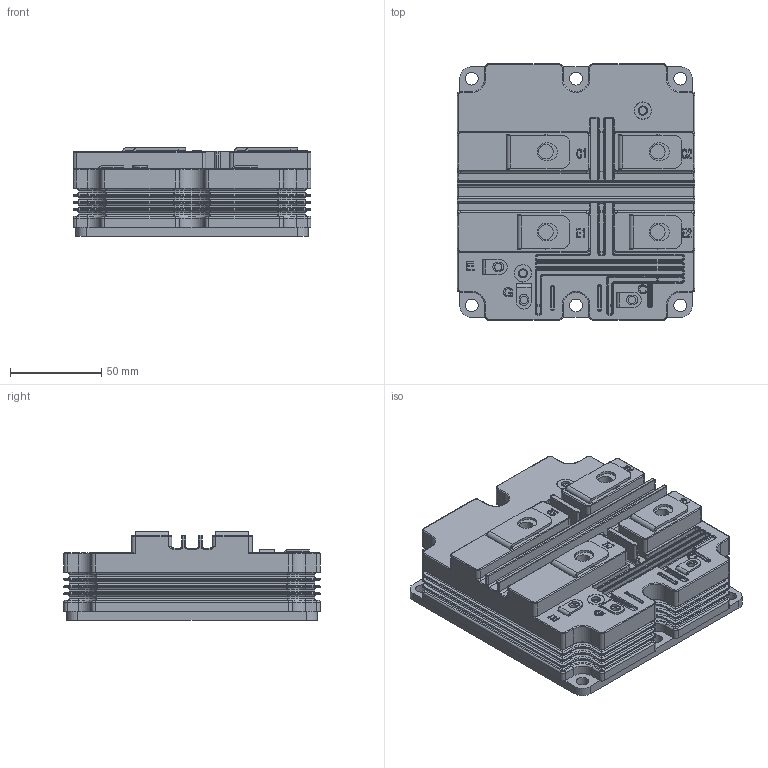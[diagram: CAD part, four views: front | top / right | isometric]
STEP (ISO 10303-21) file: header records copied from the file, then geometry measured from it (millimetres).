
FILE_DESCRIPTION (( 'STEP AP214' ), '1' );
FILE_NAME ('LD-ES-170634-MBN500H65E2.STEP', '2017-08-25T06:59:48', ( 'Flora110' ), ( '' ), 'SwSTEP 2.0', 'SolidWorks 2010', '' );
FILE_SCHEMA (( 'AUTOMOTIVE_DESIGN' ));
Length unit declared in the file: millimetre
Products named in the file (1): LD-ES-170634-MBN500H65E2
Bounding box: 130 x 140 x 48.5 mm (x, y, z)
Volume: 660860.9 mm3; surface area: 96489.5 mm2
Topology: 1 solids, 23 shells, 1918 faces, 4577 edges, 2765 vertices
Faces by surface type: cylinder 735, plane 650, bspline 533
Full cylindrical faces by diameter (mm): 3.5 x4, 4 x3, 4.5 x4, 5 x5, 7 x10, 8 x4, 9 x4, 9.3 x2, 9.5 x2, 18.1 x4, 18.5 x4
Entity records: 63007 total; most frequent: CARTESIAN_POINT 20972, ORIENTED_EDGE 8912, DIRECTION 8491, EDGE_CURVE 4456, AXIS2_PLACEMENT_3D 3083, VERTEX_POINT 2735, VECTOR 2325, LINE 2325
